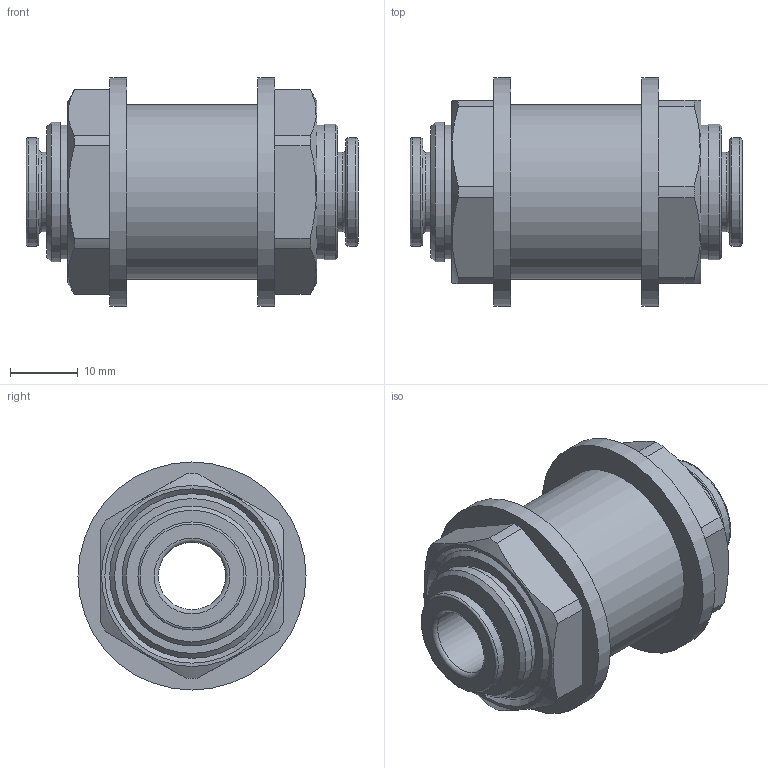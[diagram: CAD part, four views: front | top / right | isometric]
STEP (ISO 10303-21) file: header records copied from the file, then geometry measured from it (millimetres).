
FILE_DESCRIPTION(('HOOPS Exchange Step'),'2;1');
FILE_NAME('/private/var/mobile/Containers/Data/Application/1606885C-1F6A-4C16-ADE5-2EBBFD4A2795/tmp/export/temp_export','2024-08-12T14:09:31+02:00',('mobile'),('Shapr3D Limited'),'HOOPS Exchange 2024.2','Shapr3D','Authorized');
FILE_SCHEMA( ('AP242_MANAGED_MODEL_BASED_3D_ENGINEERING_MIM_LF {1 0 10303 442 1 1 4 }') );
Length unit declared in the file: millimetre
Products named in the file (2): 10,30,4,0009; root
Assembly tree (1 placements, depth 2):
  root
    10,30,4,0009
Bounding box: 49 x 33.66 x 33.66 mm (x, y, z)
Volume: 21297.7 mm3; surface area: 8159.7 mm2
Topology: 1 solids, 1 shells, 70 faces, 158 edges, 104 vertices
Faces by surface type: plane 28, cylinder 26, cone 8, torus 8
Full cylindrical faces by diameter (mm): 9.951 x1, 11.742 x2, 15.951 x2, 19.755 x2, 20 x1, 20.614 x1, 25.712 x1, 33.657 x2
Entity records: 2281 total; most frequent: CARTESIAN_POINT 552, DIRECTION 382, ORIENTED_EDGE 316, AXIS2_PLACEMENT_3D 162, EDGE_CURVE 158, VERTEX_POINT 104, CIRCLE 88, EDGE_LOOP 86
